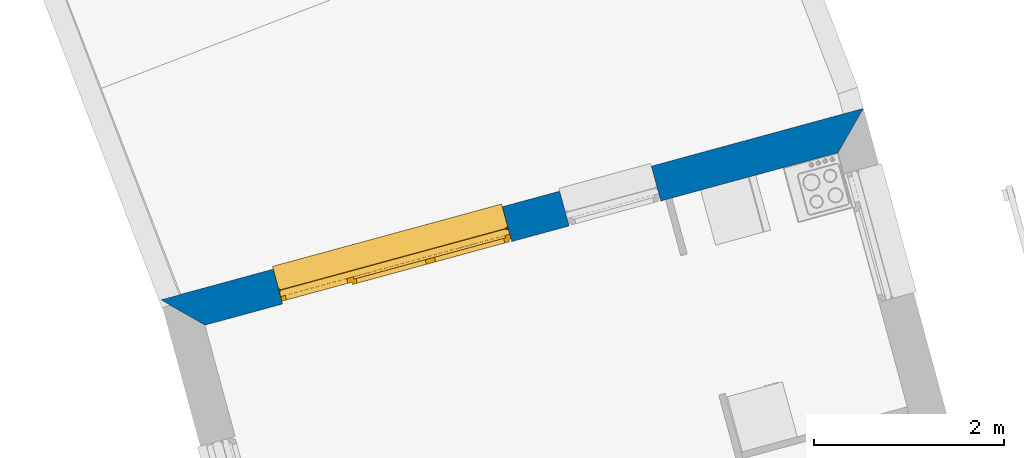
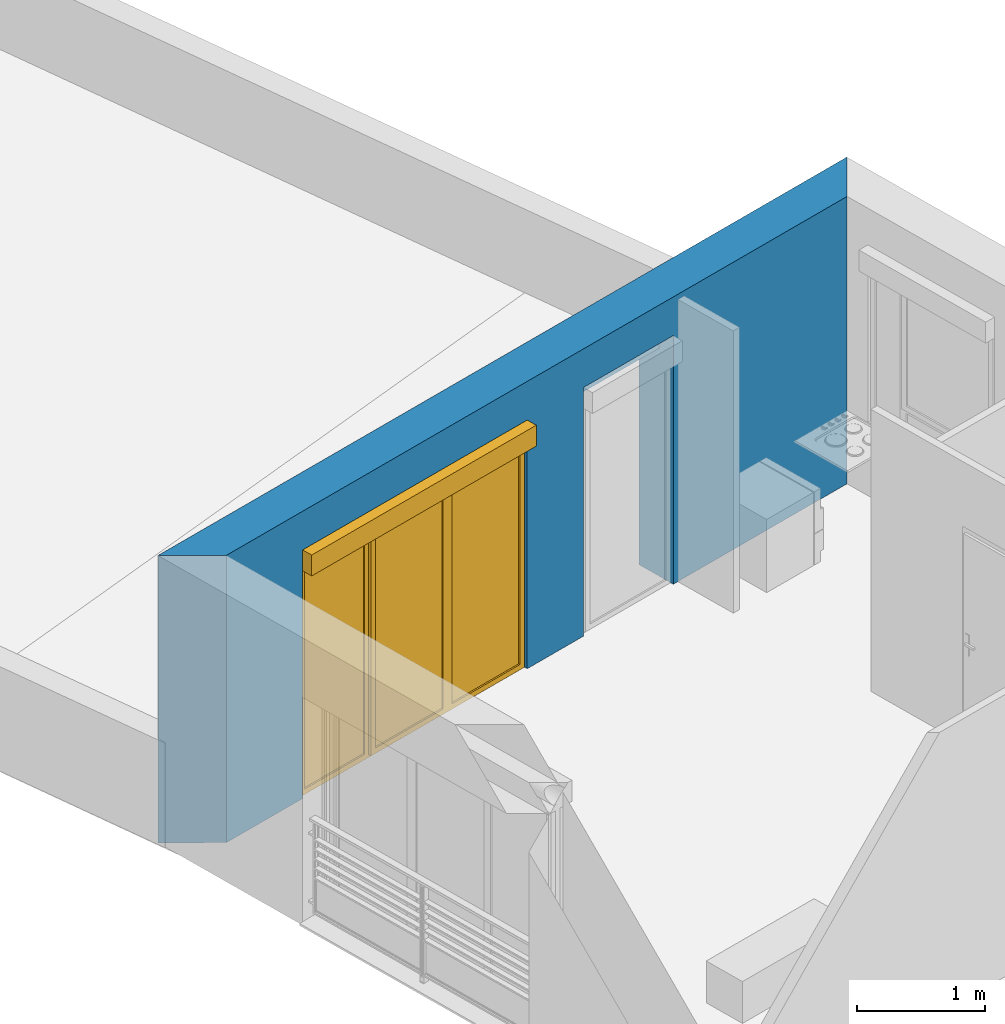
# One storey, part 64 of 121: 1 wall, 1 window, 2 openings.
"""IFC2X3 building model written with IfcOpenShell, lengths in metres."""

from ifc_helpers import new_model, entity, si_unit, converted_unit, derived_unit, money_unit, direction, frame, origin_with_axes, place, context, subcontext, project, spatial, polyline, outline, extrude, open_shell, faceted_brep, surface_model, source, transform, mapped, material, layer, layer_set, layer_usage, type_object, element, fill, save


model = new_model("IFC2X3")

# Units and contexts
model_context = context("Model", 3, precision=1e-05, world=origin_with_axes(), true_north=direction((0.0, 1.0)))
body_context = subcontext(model_context, "Body", "Model", "MODEL_VIEW")
ifc_project = project(units=[si_unit("LENGTHUNIT", "METRE"), si_unit("AREAUNIT", "SQUARE_METRE"), si_unit("VOLUMEUNIT", "CUBIC_METRE"), converted_unit("PLANEANGLEUNIT", "DEGREE", entity("IfcPlaneAngleMeasure", 0.0174532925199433), si_unit("PLANEANGLEUNIT", "RADIAN"), dimensions=[0, 0, 0, 0, 0, 0, 0]), money_unit("CHF"), converted_unit("TIMEUNIT", "Year", entity("IfcTimeMeasure", 31557600.0), si_unit("TIMEUNIT", "SECOND"), dimensions=[0, 0, 1, 0, 0, 0, 0]), si_unit("MASSUNIT", "GRAM", prefix="KILO"), si_unit("THERMODYNAMICTEMPERATUREUNIT", "DEGREE_CELSIUS"), si_unit("LUMINOUSINTENSITYUNIT", "LUMEN"), si_unit("ENERGYUNIT", "JOULE", prefix="MEGA"), derived_unit("THERMALCONDUCTANCEUNIT", [(si_unit("POWERUNIT", "WATT"), 1), (si_unit("LENGTHUNIT", "METRE"), -1), (si_unit("THERMODYNAMICTEMPERATUREUNIT", "KELVIN"), -1)]), derived_unit("SPECIFICHEATCAPACITYUNIT", [(si_unit("ENERGYUNIT", "JOULE"), 1), (si_unit("MASSUNIT", "GRAM", prefix="KILO"), -1), (si_unit("THERMODYNAMICTEMPERATUREUNIT", "KELVIN"), -1)]), derived_unit("MASSDENSITYUNIT", [(si_unit("MASSUNIT", "GRAM", prefix="KILO"), 1), (si_unit("VOLUMEUNIT", "CUBIC_METRE"), -1)])], contexts=[model_context])

# Site, building, storey
site_placement = place(None, origin_with_axes())
site = spatial("IfcSite", under=ifc_project, at=site_placement, Name="Site", CompositionType="ELEMENT")
building_placement = place(site_placement, origin_with_axes())
building = spatial("IfcBuilding", under=site, at=building_placement, Name="Bâtiment", CompositionType="ELEMENT")
storey_placement = place(building_placement, frame((0.0, 0.0, 2.75), z_axis=(0.0, 0.0, 1.0), x_axis=(1.0, 0.0, 0.0)))
storey = spatial("IfcBuildingStorey", under=building, at=storey_placement, Name="Etage 1", CompositionType="ELEMENT", Elevation=2.75)

# Wall, openings, window
ifc_material_1 = material(Name="Parpaing 312445824")
ifc_layer_1 = layer(ifc_material_1, 0.22, ventilated="UNKNOWN")
ifc_material_2 = material(Name="Isolant styromousse 301821074")
ifc_layer_2 = layer(ifc_material_2, 0.16, ventilated="UNKNOWN")
ifc_layer_set = layer_set([ifc_layer_1, ifc_layer_2], Name="isol int 22+16 0836643197")
ifc_layer_usage = layer_usage(ifc_layer_set, "AXIS2", "POSITIVE", 0.0)
wall_type = type_object("IfcWallType", Name="isol int 22+16 0836643197 380", PredefinedType="NOTDEFINED")
wall_placement = place(storey_placement, frame((9593.736527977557, -1044.912464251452, 57.7), z_axis=(0.0, 0.0, 1.0), x_axis=(-0.9648682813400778, -0.2627340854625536, 0.0)))
wall = element("IfcWallStandardCase", 1, at=wall_placement, inside=storey, type_object=wall_type, material=ifc_layer_usage, Name="Mur-113", context=body_context, shape_type="SweptSolid", body=[
    extrude(outline(polyline([(0.0, 0.0), (7.669914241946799, 0.0), (7.289914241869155, 0.3799999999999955), (0.3799999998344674, 0.3799999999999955), (0.0, 0.0)])), origin_with_axes(), (0.0, 0.0, 1.0), 2.75),
])
opening_1_placement = place(wall_placement, frame((5.190827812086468, 0.0, 0.0), z_axis=(0.0, 0.0, 1.0), x_axis=(1.0, 0.0, 0.0)))
opening_1 = element("IfcOpeningElement", 2, at=opening_1_placement, cuts=wall, Name="Fen-045", context=body_context, shape_type="Brep", body=[
    faceted_brep([(-1.25, 0.2999999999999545, 2.18), (-1.250000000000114, 0.4799999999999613, 2.18), (-1.250000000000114, 2.325352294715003, 2.18), (-1.250000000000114, 2.325352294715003, 0.0), (-1.25, 0.2999999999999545, 0.0), (-1.25, 0.2199999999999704, 2.18), (-1.25, 0.2199999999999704, 2.380000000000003), (-1.250000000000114, 0.4799999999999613, 2.380000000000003), (1.25, 0.4800000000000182, 2.18), (1.25, 2.325352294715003, 2.18), (1.25, 2.325352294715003, 0.0), (1.250000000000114, 0.2999999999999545, 0.0), (1.25, -1.945352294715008, 0.0), (-1.25, -1.945352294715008, 0.0), (-1.25, -1.945352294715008, 2.18), (1.25, 0.2199999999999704, 2.18), (1.25, 0.2199999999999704, 2.380000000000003), (1.25, 0.4800000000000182, 2.380000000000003), (1.25, 0.2999999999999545, 2.18), (1.25, -1.945352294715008, 2.18)], [[[0, 1, 2, 3, 4]], [[1, 0, 5, 6, 7]], [[1, 8, 9, 2]], [[9, 10, 3, 2]], [[11, 12, 13, 4, 3, 10]], [[5, 0, 4, 13, 14]], [[5, 15, 16, 6]], [[16, 17, 7, 6]], [[8, 1, 7, 17]], [[8, 18, 11, 10, 9]], [[18, 15, 19, 12, 11]], [[14, 13, 12, 19]], [[15, 5, 14, 19]], [[18, 8, 17, 16, 15]]]),
])
opening_2_placement = place(wall_placement, frame((2.814693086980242, 0.0, 0.0), z_axis=(0.0, 0.0, 1.0), x_axis=(1.0, 0.0, 0.0)))
element("IfcOpeningElement", 3, at=opening_2_placement, cuts=wall, Name="Fen-052", context=body_context, shape_type="Brep", body=[
    faceted_brep([(-0.5, 0.3000000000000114, 2.18), (-0.5, 0.4800000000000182, 2.18), (-0.5, 2.325352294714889, 2.18), (-0.5, 2.325352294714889, 0.0), (-0.5, 0.3000000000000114, 0.0), (-0.5, 0.2199999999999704, 2.18), (-0.5, 0.2199999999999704, 2.380000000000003), (-0.5, 0.4800000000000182, 2.380000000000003), (0.4999999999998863, 0.4800000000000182, 2.18), (0.5, 2.325352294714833, 2.18), (0.5, 2.325352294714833, 0.0), (0.5, 0.2999999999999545, 0.0), (0.4999999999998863, -1.945352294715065, 0.0), (-0.5000000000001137, -1.945352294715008, 0.0), (-0.5000000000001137, -1.945352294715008, 2.18), (0.4999999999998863, 0.2199999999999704, 2.18), (0.4999999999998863, 0.2199999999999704, 2.380000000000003), (0.4999999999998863, 0.4800000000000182, 2.380000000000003), (0.4999999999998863, 0.2999999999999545, 2.18), (0.4999999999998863, -1.945352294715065, 2.18)], [[[0, 1, 2, 3, 4]], [[1, 0, 5, 6, 7]], [[1, 8, 9, 2]], [[9, 10, 3, 2]], [[11, 12, 13, 4, 3, 10]], [[5, 0, 4, 13, 14]], [[5, 15, 16, 6]], [[7, 6, 16, 17]], [[8, 1, 7, 17]], [[8, 18, 11, 10, 9]], [[18, 15, 19, 12, 11]], [[14, 13, 12, 19]], [[15, 5, 14, 19]], [[18, 8, 17, 16, 15]]]),
])
window_style = type_object("IfcWindowStyle", Name="Fenêtre variable 27", ConstructionType="NOTDEFINED", OperationType="TRIPLE_PANEL_VERTICAL", ParameterTakesPrecedence=False, Sizeable=False)
shared_shape = source(origin_with_axes(), body_context, "Body", "SurfaceModel", [
    surface_model("IfcShellBasedSurfaceModel", [(-1.25, -0.05100000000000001, 0.05), (-1.25, -0.05100000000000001, 0.04), (1.25, -0.05100000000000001, 0.04000000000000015), (1.25, -0.05100000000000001, 0.05000000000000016), (-1.25, -0.3799999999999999, 0.02899999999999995), (1.25, -0.3799999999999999, 0.02900000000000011), (-1.25, -0.3799999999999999, 0.008999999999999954), (1.25, -0.3799999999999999, 0.009000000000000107), (-1.25, -0.3699999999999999, 0.01899999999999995), (1.25, -0.3699999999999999, 0.01900000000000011)], [open_shell([[[0, 1, 2, 3]], [[1, 4, 5, 2]], [[4, 6, 7, 5]], [[6, 8, 9, 7]]])]),
    faceted_brep([(-1.25, -0.1300000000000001, 2.38), (-1.247, -0.1300000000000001, 2.38), (-1.247, 0.1299999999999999, 2.38), (-1.25, 0.1299999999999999, 2.38), (-1.25, -0.1300000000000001, 2.18), (-1.247, -0.1300000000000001, 2.18), (-1.247, 0.1299999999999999, 2.18), (-1.25, 0.1299999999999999, 2.18)], [[[0, 1, 2, 3]], [[4, 5, 1, 0]], [[1, 5, 6, 2]], [[3, 2, 6, 7]], [[0, 3, 7, 4]], [[7, 6, 5, 4]]]),
    faceted_brep([(1.247, -0.1299999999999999, 2.38), (1.25, -0.1299999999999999, 2.38), (1.25, 0.1300000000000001, 2.38), (1.247, 0.1300000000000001, 2.38), (1.247, -0.1299999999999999, 2.18), (1.25, -0.1299999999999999, 2.18), (1.25, 0.1300000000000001, 2.18), (1.247, 0.1300000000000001, 2.18)], [[[0, 1, 2, 3]], [[4, 5, 1, 0]], [[1, 5, 6, 2]], [[3, 2, 6, 7]], [[0, 3, 7, 4]], [[7, 6, 5, 4]]]),
    faceted_brep([(-1.247, -0.1300000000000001, 2.18), (1.247, -0.1299999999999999, 2.18), (1.247, -0.1299999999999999, 2.38), (-1.247, -0.1300000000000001, 2.38), (-1.247, -0.1270000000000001, 2.18), (1.247, -0.1269999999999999, 2.18), (1.247, -0.1269999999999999, 2.377), (1.247, 0.1270000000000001, 2.377), (1.247, 0.1270000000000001, 2.183), (1.247, -0.1079999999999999, 2.183), (1.247, -0.1079999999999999, 2.18), (1.247, 0.1300000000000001, 2.18), (1.247, 0.1300000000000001, 2.38), (-1.247, 0.1299999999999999, 2.38), (-1.247, 0.1299999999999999, 2.18), (-1.247, -0.1080000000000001, 2.18), (-1.247, -0.1080000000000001, 2.183), (-1.247, 0.1269999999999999, 2.183), (-1.247, 0.1269999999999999, 2.377), (-1.247, -0.1270000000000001, 2.377)], [[[0, 1, 2, 3]], [[4, 5, 1, 0]], [[1, 5, 6, 7, 8, 9, 10, 11, 12, 2]], [[3, 2, 12, 13]], [[0, 3, 13, 14, 15, 16, 17, 18, 19, 4]], [[19, 6, 5, 4]], [[18, 7, 6, 19]], [[17, 8, 7, 18]], [[16, 9, 8, 17]], [[15, 10, 9, 16]], [[14, 11, 10, 15]], [[13, 12, 11, 14]]]),
    faceted_brep([(-1.244, -0.08075423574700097, 2.265760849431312), (-1.244, -0.08200000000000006, 2.28), (-1.244, -0.08075423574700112, 2.294239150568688), (-1.244, -0.07705479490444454, 2.308045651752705), (-1.244, -0.07101408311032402, 2.321), (-1.244, -0.06281564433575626, 2.332708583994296), (-1.244, -0.05270858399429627, 2.342815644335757), (-1.244, -0.04100000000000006, 2.351014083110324), (-1.244, -0.0280456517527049, 2.357054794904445), (-1.244, -0.01423915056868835, 2.360754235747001), (-1.244, 0.0, 2.362), (-1.244, 0.01423915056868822, 2.360754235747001), (-1.244, 0.02804565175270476, 2.357054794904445), (-1.244, 0.04099999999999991, 2.351014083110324), (-1.244, 0.05270858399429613, 2.342815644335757), (-1.244, 0.0628156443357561, 2.332708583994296), (-1.244, 0.07101408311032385, 2.321), (-1.244, 0.07705479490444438, 2.308045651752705), (-1.244, 0.08075423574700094, 2.294239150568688), (-1.244, 0.08199999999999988, 2.28), (-1.244, 0.08075423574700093, 2.265760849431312), (-1.244, 0.07705479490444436, 2.251954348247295), (-1.244, 0.07101408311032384, 2.239), (-1.244, 0.06281564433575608, 2.227291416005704), (-1.244, 0.05270858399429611, 2.217184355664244), (-1.244, 0.0409999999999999, 2.208985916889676), (-1.244, 0.02804565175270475, 2.202945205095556), (-1.244, 0.01423915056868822, 2.199245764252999), (-1.244, 0.0, 2.198), (-1.244, -0.01423915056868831, 2.199245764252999), (-1.244, -0.02804565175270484, 2.202945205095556), (-1.244, -0.04099999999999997, 2.208985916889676), (-1.244, -0.05270858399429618, 2.217184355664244), (-1.244, -0.06281564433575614, 2.227291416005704), (-1.244, -0.07101408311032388, 2.239), (-1.244, -0.07705479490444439, 2.251954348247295), (1.244, -0.08075423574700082, 2.265760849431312), (1.244, -0.0819999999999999, 2.28), (1.244, -0.08075423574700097, 2.294239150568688), (1.244, -0.07705479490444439, 2.308045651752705), (1.244, -0.07101408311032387, 2.321), (1.244, -0.06281564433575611, 2.332708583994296), (1.244, -0.05270858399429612, 2.342815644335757), (1.244, -0.0409999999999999, 2.351014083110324), (1.244, -0.02804565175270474, 2.357054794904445), (1.244, -0.0142391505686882, 2.360754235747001), (1.244, 0.0, 2.362), (1.244, 0.01423915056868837, 2.360754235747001), (1.244, 0.02804565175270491, 2.357054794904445), (1.244, 0.04100000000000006, 2.351014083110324), (1.244, 0.05270858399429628, 2.342815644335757), (1.244, 0.06281564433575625, 2.332708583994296), (1.244, 0.071014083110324, 2.321), (1.244, 0.07705479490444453, 2.308045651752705), (1.244, 0.0807542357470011, 2.294239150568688), (1.244, 0.08200000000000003, 2.28), (1.244, 0.08075423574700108, 2.265760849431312), (1.244, 0.07705479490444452, 2.251954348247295), (1.244, 0.07101408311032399, 2.239), (1.244, 0.06281564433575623, 2.227291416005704), (1.244, 0.05270858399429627, 2.217184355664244), (1.244, 0.04100000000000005, 2.208985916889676), (1.244, 0.02804565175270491, 2.202945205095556), (1.244, 0.01423915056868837, 2.199245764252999), (1.244, 0.0, 2.198), (1.244, -0.01423915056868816, 2.199245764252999), (1.244, -0.02804565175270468, 2.202945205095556), (1.244, -0.04099999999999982, 2.208985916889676), (1.244, -0.05270858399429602, 2.217184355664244), (1.244, -0.06281564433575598, 2.227291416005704), (1.244, -0.07101408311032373, 2.239), (1.244, -0.07705479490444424, 2.251954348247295)], [[[0, 1, 2, 3, 4, 5, 6, 7, 8, 9, 10, 11, 12, 13, 14, 15, 16, 17, 18, 19, 20, 21, 22, 23, 24, 25, 26, 27, 28, 29, 30, 31, 32, 33, 34, 35]], [[0, 36, 37, 1]], [[1, 37, 38, 2]], [[2, 38, 39, 3]], [[3, 39, 40, 4]], [[4, 40, 41, 5]], [[5, 41, 42, 6]], [[6, 42, 43, 7]], [[7, 43, 44, 8]], [[8, 44, 45, 9]], [[9, 45, 46, 10]], [[10, 46, 47, 11]], [[11, 47, 48, 12]], [[12, 48, 49, 13]], [[13, 49, 50, 14]], [[14, 50, 51, 15]], [[15, 51, 52, 16]], [[16, 52, 53, 17]], [[17, 53, 54, 18]], [[18, 54, 55, 19]], [[19, 55, 56, 20]], [[20, 56, 57, 21]], [[21, 57, 58, 22]], [[22, 58, 59, 23]], [[23, 59, 60, 24]], [[24, 60, 61, 25]], [[25, 61, 62, 26]], [[26, 62, 63, 27]], [[27, 63, 64, 28]], [[28, 64, 65, 29]], [[29, 65, 66, 30]], [[30, 66, 67, 31]], [[31, 67, 68, 32]], [[32, 68, 69, 33]], [[33, 69, 70, 34]], [[34, 70, 71, 35]], [[35, 71, 36, 0]], [[36, 71, 70, 69, 68, 67, 66, 65, 64, 63, 62, 61, 60, 59, 58, 57, 56, 55, 54, 53, 52, 51, 50, 49, 48, 47, 46, 45, 44, 43, 42, 41, 40, 39, 38, 37]]]),
    faceted_brep([(1.25, -0.105, 0.03), (1.25, -0.1049999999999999, 2.18), (1.25, -0.1299999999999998, 2.18), (1.25, -0.13, 0.03), (1.225, -0.105, 0.03), (1.225, -0.1049999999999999, 2.18), (1.225, -0.1079999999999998, 2.18), (1.247, -0.1079999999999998, 2.18), (1.247, -0.1269999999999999, 2.18), (1.225, -0.1269999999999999, 2.18), (1.225, -0.1299999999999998, 2.18), (1.225, -0.13, 0.03), (1.225, -0.127, 0.03), (1.247, -0.127, 0.03), (1.247, -0.108, 0.03), (1.225, -0.108, 0.03)], [[[0, 1, 2, 3]], [[4, 5, 1, 0]], [[1, 5, 6, 7, 8, 9, 10, 2]], [[3, 2, 10, 11]], [[0, 3, 11, 12, 13, 14, 15, 4]], [[15, 6, 5, 4]], [[14, 7, 6, 15]], [[13, 8, 7, 14]], [[12, 9, 8, 13]], [[11, 10, 9, 12]]]),
    faceted_brep([(-1.25, -0.105, 0.03), (-1.25, -0.13, 0.03), (-1.25, -0.1299999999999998, 2.18), (-1.25, -0.1049999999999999, 2.18), (-1.225, -0.105, 0.03), (-1.225, -0.108, 0.03), (-1.247, -0.108, 0.03), (-1.247, -0.127, 0.03), (-1.225, -0.127, 0.03), (-1.225, -0.13, 0.03), (-1.225, -0.1299999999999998, 2.18), (-1.225, -0.1269999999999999, 2.18), (-1.247, -0.1269999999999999, 2.18), (-1.247, -0.1079999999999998, 2.18), (-1.225, -0.1079999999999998, 2.18), (-1.225, -0.1049999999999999, 2.18)], [[[0, 1, 2, 3]], [[0, 4, 5, 6, 7, 8, 9, 1]], [[1, 9, 10, 2]], [[3, 2, 10, 11, 12, 13, 14, 15]], [[4, 0, 3, 15]], [[5, 4, 15, 14]], [[6, 5, 14, 13]], [[7, 6, 13, 12]], [[8, 7, 12, 11]], [[9, 8, 11, 10]]]),
    surface_model("IfcShellBasedSurfaceModel", [(-1.247, -0.115, 2.28), (1.247, -0.1149999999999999, 2.28), (1.247, -0.1199999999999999, 2.28), (-1.247, -0.1200000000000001, 2.28), (-1.247, -0.115, 2.28), (-1.247, -0.1200000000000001, 2.28), (1.247, -0.1199999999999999, 2.28), (1.247, -0.1149999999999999, 2.28)], [open_shell([[[0, 1, 2, 3]], [[4, 5, 6, 7]]])]),
    faceted_brep([(-1.247, -0.115, 2.28), (1.247, -0.1149999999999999, 2.28), (1.247, -0.1166666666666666, 2.263333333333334), (-1.247, -0.1166666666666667, 2.263333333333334), (-1.247, -0.1200000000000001, 2.28), (1.247, -0.1199999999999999, 2.28), (1.247, -0.1216666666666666, 2.263333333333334), (1.247, -0.1216666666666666, 2.246666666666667), (1.247, -0.1199999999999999, 2.23), (1.247, -0.1149999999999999, 2.23), (1.247, -0.1166666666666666, 2.246666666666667), (-1.247, -0.1166666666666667, 2.246666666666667), (-1.247, -0.115, 2.23), (-1.247, -0.1200000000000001, 2.23), (-1.247, -0.1216666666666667, 2.246666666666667), (-1.247, -0.1216666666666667, 2.263333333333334)], [[[0, 1, 2, 3]], [[4, 5, 1, 0]], [[1, 5, 6, 7, 8, 9, 10, 2]], [[3, 2, 10, 11]], [[0, 3, 11, 12, 13, 14, 15, 4]], [[15, 6, 5, 4]], [[14, 7, 6, 15]], [[13, 8, 7, 14]], [[12, 9, 8, 13]], [[11, 10, 9, 12]]]),
    faceted_brep([(-1.247, -0.115, 2.23), (1.247, -0.1149999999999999, 2.23), (1.247, -0.1166666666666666, 2.213333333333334), (-1.247, -0.1166666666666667, 2.213333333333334), (-1.247, -0.1200000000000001, 2.23), (1.247, -0.1199999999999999, 2.23), (1.247, -0.1216666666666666, 2.213333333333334), (1.247, -0.1216666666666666, 2.196666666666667), (1.247, -0.1199999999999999, 2.180000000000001), (1.247, -0.1149999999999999, 2.180000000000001), (1.247, -0.1166666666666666, 2.196666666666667), (-1.247, -0.1166666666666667, 2.196666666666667), (-1.247, -0.115, 2.180000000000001), (-1.247, -0.1200000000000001, 2.180000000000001), (-1.247, -0.1216666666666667, 2.196666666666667), (-1.247, -0.1216666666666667, 2.213333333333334)], [[[0, 1, 2, 3]], [[4, 5, 1, 0]], [[1, 5, 6, 7, 8, 9, 10, 2]], [[3, 2, 10, 11]], [[0, 3, 11, 12, 13, 14, 15, 4]], [[15, 6, 5, 4]], [[14, 7, 6, 15]], [[13, 8, 7, 14]], [[12, 9, 8, 13]], [[11, 10, 9, 12]]]),
    faceted_brep([(-1.225, 0.0, 2.13), (-1.25, 0.0, 2.13), (-1.25, -0.05000000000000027, 2.13), (-1.2, -0.05000000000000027, 2.13), (-1.2, -0.02500000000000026, 2.13), (-1.225, -0.02500000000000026, 2.13), (-1.225, 0.0, 0.05000000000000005), (-1.25, 0.0, 0.05000000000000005), (-1.25, -0.05000000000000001, 0.05000000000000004), (-1.2, -0.05000000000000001, 0.05000000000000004), (-1.2, -0.02500000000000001, 0.05000000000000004), (-1.225, -0.02500000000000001, 0.05000000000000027)], [[[0, 1, 2, 3, 4, 5]], [[6, 7, 1, 0]], [[1, 7, 8, 2]], [[2, 8, 9, 3]], [[4, 3, 9, 10]], [[10, 11, 5, 4]], [[5, 11, 6, 0]], [[11, 10, 9, 8, 7, 6]]]),
    faceted_brep([(0.4600000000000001, -0.02500000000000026, 2.13), (0.4600000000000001, -0.05000000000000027, 2.13), (0.5300000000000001, -0.05000000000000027, 2.13), (0.5300000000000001, 0.0, 2.13), (0.4850000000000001, 0.0, 2.13), (0.4850000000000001, -0.02500000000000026, 2.13), (0.4600000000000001, -0.02500000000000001, 0.05000000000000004), (0.4600000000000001, -0.05000000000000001, 0.05000000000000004), (0.5300000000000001, -0.05000000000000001, 0.05000000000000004), (0.5300000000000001, 0.0, 0.05000000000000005), (0.4850000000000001, 0.0, 0.05000000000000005), (0.4850000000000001, -0.02500000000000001, 0.05000000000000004)], [[[0, 1, 2, 3, 4, 5]], [[6, 7, 1, 0]], [[8, 2, 1, 7]], [[9, 3, 2, 8]], [[4, 3, 9, 10]], [[10, 11, 5, 4]], [[5, 11, 6, 0]], [[11, 10, 9, 8, 7, 6]]]),
    faceted_brep([(0.4600000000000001, -0.02500000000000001, 0.05000000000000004), (0.4600000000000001, -0.05000000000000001, 0.05000000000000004), (0.5300000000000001, -0.05000000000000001, 0.05000000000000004), (0.5300000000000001, 0.0, 0.05000000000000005), (0.4850000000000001, 0.0, 0.05000000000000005), (0.4850000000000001, -0.02500000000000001, 0.05000000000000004), (-1.2, -0.02500000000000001, 0.05000000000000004), (-1.2, -0.05000000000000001, 0.05000000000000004), (-1.25, -0.05000000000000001, 0.05000000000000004), (-1.25, -0.05, 0.0), (1.25, -0.05, 0.0), (1.25, -0.05000000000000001, 0.05000000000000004), (1.2, -0.05000000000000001, 0.05000000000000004), (1.2, 0.0, 0.05000000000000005), (-1.225, 0.0, 0.02499999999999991), (0.4850000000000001, 0.0, 0.02499999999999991), (1.25, 0.0, 0.05000000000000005), (1.25, 0.0, 0.0), (-1.25, 0.0, 0.0), (-1.25, 0.0, 0.05000000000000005), (-1.225, 0.0, 0.05000000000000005), (0.4850000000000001, -0.025, 0.02499999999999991), (-1.225, -0.025, 0.02499999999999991), (-1.225, -0.02500000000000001, 0.05000000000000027)], [[[0, 1, 2, 3, 4, 5]], [[6, 7, 1, 0]], [[8, 9, 10, 11, 12, 2, 1, 7]], [[13, 3, 2, 12]], [[14, 15, 4, 3, 13, 16, 17, 18, 19, 20]], [[15, 21, 5, 4]], [[5, 21, 22, 23, 6, 0]], [[23, 20, 19, 8, 7, 6]], [[19, 18, 9, 8]], [[18, 17, 10, 9]], [[17, 16, 11, 10]], [[16, 13, 12, 11]], [[14, 22, 21, 15]], [[23, 22, 14, 20]]]),
    faceted_brep([(-1.225, 0.0, 2.13), (-1.25, 0.0, 2.13), (-1.25, 0.0, 2.18), (1.25, 0.0, 2.18), (1.25, 0.0, 2.13), (1.2, 0.0, 2.13), (0.5300000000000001, 0.0, 2.13), (0.4850000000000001, 0.0, 2.13), (0.4850000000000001, 0.0, 2.155), (-1.225, 0.0, 2.155), (-1.225, -0.02500000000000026, 2.13), (-1.2, -0.02500000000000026, 2.13), (-1.2, -0.05000000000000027, 2.13), (-1.25, -0.05000000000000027, 2.13), (-1.25, -0.05000000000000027, 2.18), (1.25, -0.05000000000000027, 2.18), (1.25, -0.05000000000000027, 2.13), (1.2, -0.05000000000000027, 2.13), (0.5300000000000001, -0.05000000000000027, 2.13), (0.4850000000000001, -0.02500000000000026, 2.13), (0.4600000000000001, -0.05000000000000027, 2.13), (0.4600000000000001, -0.02500000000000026, 2.13), (0.4850000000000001, -0.02500000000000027, 2.155), (-1.225, -0.02500000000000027, 2.155)], [[[0, 1, 2, 3, 4, 5, 6, 7, 8, 9]], [[10, 11, 12, 13, 1, 0]], [[2, 1, 13, 14]], [[3, 2, 14, 15]], [[4, 3, 15, 16]], [[5, 4, 16, 17]], [[6, 5, 17, 18]], [[19, 7, 6, 18, 20, 21]], [[7, 19, 22, 8]], [[8, 22, 23, 9]], [[9, 23, 10, 0]], [[21, 11, 10, 23, 22, 19]], [[21, 20, 12, 11]], [[18, 17, 16, 15, 14, 13, 12, 20]]]),
    faceted_brep([(1.2, -0.05000000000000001, 0.05), (1.2, 0.0, 0.05000000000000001), (1.25, 0.0, 0.05000000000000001), (1.25, -0.05000000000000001, 0.05), (1.2, -0.05000000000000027, 2.13), (1.2, 0.0, 2.13), (1.25, 0.0, 2.13), (1.25, -0.05000000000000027, 2.13)], [[[0, 1, 2, 3]], [[4, 5, 1, 0]], [[1, 5, 6, 2]], [[3, 2, 6, 7]], [[0, 3, 7, 4]], [[7, 6, 5, 4]]]),
    faceted_brep([(-0.3199999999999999, -0.02500000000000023, 2.105), (-0.3199999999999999, 0.02499999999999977, 2.105), (-0.3699999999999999, 0.02499999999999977, 2.105), (-0.3699999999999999, -0.02500000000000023, 2.105), (-0.3199999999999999, -0.02499999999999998, 0.07500000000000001), (-0.3199999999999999, 0.02500000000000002, 0.07500000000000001), (-0.3699999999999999, 0.02500000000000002, 0.07500000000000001), (-0.3699999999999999, -0.02499999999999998, 0.07500000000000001)], [[[0, 1, 2, 3]], [[4, 5, 1, 0]], [[1, 5, 6, 2]], [[3, 2, 6, 7]], [[0, 3, 7, 4]], [[7, 6, 5, 4]]]),
    faceted_brep([(0.4350000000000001, -0.02500000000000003, 0.07500000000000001), (0.4350000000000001, 0.02499999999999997, 0.07500000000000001), (0.4850000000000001, 0.02499999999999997, 0.07500000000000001), (0.4850000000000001, -0.02500000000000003, 0.07500000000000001), (0.4350000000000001, -0.02500000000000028, 2.105), (0.4350000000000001, 0.02499999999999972, 2.105), (0.4850000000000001, 0.02499999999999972, 2.105), (0.4850000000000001, -0.02500000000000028, 2.105)], [[[0, 1, 2, 3]], [[4, 5, 1, 0]], [[1, 5, 6, 2]], [[3, 2, 6, 7]], [[0, 3, 7, 4]], [[7, 6, 5, 4]]]),
    faceted_brep([(0.4850000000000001, -0.02500000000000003, 0.025), (0.4850000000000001, 0.02499999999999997, 0.02500000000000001), (0.4850000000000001, 0.02499999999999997, 0.07500000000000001), (0.4850000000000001, -0.02500000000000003, 0.07500000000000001), (-0.3699999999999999, -0.02499999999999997, 0.025), (-0.3699999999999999, 0.02500000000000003, 0.02500000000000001), (-0.3699999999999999, 0.02500000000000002, 0.07500000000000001), (-0.3199999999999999, 0.02500000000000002, 0.07500000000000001), (0.4350000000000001, 0.02499999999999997, 0.07500000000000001), (0.4350000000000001, -0.02500000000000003, 0.07500000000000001), (-0.3199999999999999, -0.02499999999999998, 0.07500000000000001), (-0.3699999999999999, -0.02499999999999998, 0.07500000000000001)], [[[0, 1, 2, 3]], [[4, 5, 1, 0]], [[1, 5, 6, 7, 8, 2]], [[3, 2, 8, 9]], [[0, 3, 9, 10, 11, 4]], [[11, 6, 5, 4]], [[10, 7, 6, 11]], [[9, 8, 7, 10]]]),
    faceted_brep([(-0.3699999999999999, -0.02500000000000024, 2.155), (-0.3699999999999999, 0.02499999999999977, 2.155), (-0.3699999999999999, 0.02499999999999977, 2.105), (-0.3699999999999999, -0.02500000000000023, 2.105), (0.4850000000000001, -0.02500000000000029, 2.155), (0.4850000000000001, 0.02499999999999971, 2.155), (0.4850000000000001, 0.02499999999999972, 2.105), (0.4350000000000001, 0.02499999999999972, 2.105), (-0.3199999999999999, 0.02499999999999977, 2.105), (-0.3199999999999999, -0.02500000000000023, 2.105), (0.4350000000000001, -0.02500000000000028, 2.105), (0.4850000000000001, -0.02500000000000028, 2.105)], [[[0, 1, 2, 3]], [[4, 5, 1, 0]], [[1, 5, 6, 7, 8, 2]], [[3, 2, 8, 9]], [[0, 3, 9, 10, 11, 4]], [[11, 6, 5, 4]], [[10, 7, 6, 11]], [[9, 8, 7, 10]]]),
    surface_model("IfcShellBasedSurfaceModel", [(-0.3199999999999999, -0.01000000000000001, 0.07500000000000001), (0.4350000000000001, -0.01000000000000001, 0.07500000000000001), (0.4350000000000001, -0.01000000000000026, 2.105), (-0.3199999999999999, -0.01000000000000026, 2.105)], [open_shell([[[0, 1, 2, 3]]])]),
    surface_model("IfcShellBasedSurfaceModel", [(-0.3199999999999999, 0.009999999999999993, 0.07500000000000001), (-0.3199999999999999, 0.009999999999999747, 2.105), (0.4350000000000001, 0.009999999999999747, 2.105), (0.4350000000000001, 0.009999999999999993, 0.07500000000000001)], [open_shell([[[0, 1, 2, 3]]])]),
    faceted_brep([(-1.175, -0.02500000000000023, 2.105), (-1.175, 0.02499999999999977, 2.105), (-1.225, 0.02499999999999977, 2.105), (-1.225, -0.02500000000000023, 2.105), (-1.175, -0.02499999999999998, 0.07500000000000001), (-1.175, 0.02500000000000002, 0.07500000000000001), (-1.225, 0.02500000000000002, 0.07500000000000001), (-1.225, -0.02499999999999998, 0.07500000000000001)], [[[0, 1, 2, 3]], [[4, 5, 1, 0]], [[1, 5, 6, 2]], [[3, 2, 6, 7]], [[0, 3, 7, 4]], [[7, 6, 5, 4]]]),
    faceted_brep([(-0.4199999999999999, -0.02500000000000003, 0.07500000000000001), (-0.4199999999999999, 0.02499999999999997, 0.07500000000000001), (-0.3699999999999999, 0.02499999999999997, 0.07500000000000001), (-0.3699999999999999, -0.02500000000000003, 0.07500000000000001), (-0.4199999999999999, -0.02500000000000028, 2.105), (-0.4199999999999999, 0.02499999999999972, 2.105), (-0.3699999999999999, 0.02499999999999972, 2.105), (-0.3699999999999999, -0.02500000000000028, 2.105)], [[[0, 1, 2, 3]], [[4, 5, 1, 0]], [[1, 5, 6, 2]], [[3, 2, 6, 7]], [[0, 3, 7, 4]], [[7, 6, 5, 4]]]),
    faceted_brep([(-0.3699999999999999, -0.02500000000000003, 0.025), (-0.3699999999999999, 0.02499999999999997, 0.02500000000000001), (-0.3699999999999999, 0.02499999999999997, 0.07500000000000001), (-0.3699999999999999, -0.02500000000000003, 0.07500000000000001), (-1.225, -0.02499999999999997, 0.025), (-1.225, 0.02500000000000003, 0.02500000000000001), (-1.225, 0.02500000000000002, 0.07500000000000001), (-1.175, 0.02500000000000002, 0.07500000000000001), (-0.4199999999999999, 0.02499999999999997, 0.07500000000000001), (-0.4199999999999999, -0.02500000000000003, 0.07500000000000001), (-1.175, -0.02499999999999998, 0.07500000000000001), (-1.225, -0.02499999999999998, 0.07500000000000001)], [[[0, 1, 2, 3]], [[4, 5, 1, 0]], [[1, 5, 6, 7, 8, 2]], [[3, 2, 8, 9]], [[0, 3, 9, 10, 11, 4]], [[11, 6, 5, 4]], [[10, 7, 6, 11]], [[9, 8, 7, 10]]]),
    faceted_brep([(-1.225, -0.02500000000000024, 2.155), (-1.225, 0.02499999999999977, 2.155), (-1.225, 0.02499999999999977, 2.105), (-1.225, -0.02500000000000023, 2.105), (-0.3699999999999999, -0.02500000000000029, 2.155), (-0.3699999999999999, 0.02499999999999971, 2.155), (-0.3699999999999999, 0.02499999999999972, 2.105), (-0.4199999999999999, 0.02499999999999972, 2.105), (-1.175, 0.02499999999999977, 2.105), (-1.175, -0.02500000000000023, 2.105), (-0.4199999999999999, -0.02500000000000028, 2.105), (-0.3699999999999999, -0.02500000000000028, 2.105)], [[[0, 1, 2, 3]], [[4, 5, 1, 0]], [[1, 5, 6, 7, 8, 2]], [[3, 2, 8, 9]], [[0, 3, 9, 10, 11, 4]], [[11, 6, 5, 4]], [[10, 7, 6, 11]], [[9, 8, 7, 10]]]),
    surface_model("IfcShellBasedSurfaceModel", [(-1.175, -0.01000000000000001, 0.07500000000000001), (-0.4199999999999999, -0.01000000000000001, 0.07500000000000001), (-0.4199999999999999, -0.01000000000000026, 2.105), (-1.175, -0.01000000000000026, 2.105)], [open_shell([[[0, 1, 2, 3]]])]),
    surface_model("IfcShellBasedSurfaceModel", [(-1.175, 0.009999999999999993, 0.07500000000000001), (-1.175, 0.009999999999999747, 2.105), (-0.4199999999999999, 0.009999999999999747, 2.105), (-0.4199999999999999, 0.009999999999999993, 0.07500000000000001)], [open_shell([[[0, 1, 2, 3]]])]),
    surface_model("IfcShellBasedSurfaceModel", [(0.5300000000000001, -0.035, 0.05), (1.2, -0.035, 0.05), (1.2, -0.03500000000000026, 2.13), (0.5300000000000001, -0.03500000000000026, 2.13)], [open_shell([[[0, 1, 2, 3]]])]),
    surface_model("IfcShellBasedSurfaceModel", [(0.5300000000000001, -0.015, 0.05), (0.5300000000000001, -0.01500000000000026, 2.13), (1.2, -0.01500000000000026, 2.13), (1.2, -0.015, 0.05)], [open_shell([[[0, 1, 2, 3]]])]),
])
window_placement = place(opening_1_placement, frame((-1.250000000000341, 0.0, 0.0), z_axis=(0.0, 0.0, 1.0), x_axis=(1.0, 0.0, 0.0)))
window = element("IfcWindow", 4, at=window_placement, inside=storey, type_object=window_style, Name="Fen-045", OverallHeight=2.18, OverallWidth=2.5, context=body_context, shape_type="MappedRepresentation", body=[
    mapped(shared_shape, transform((1.25, 0.3500000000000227, 0.0))),
])
fill(opening_1, window)

save(model, "model.ifc")
